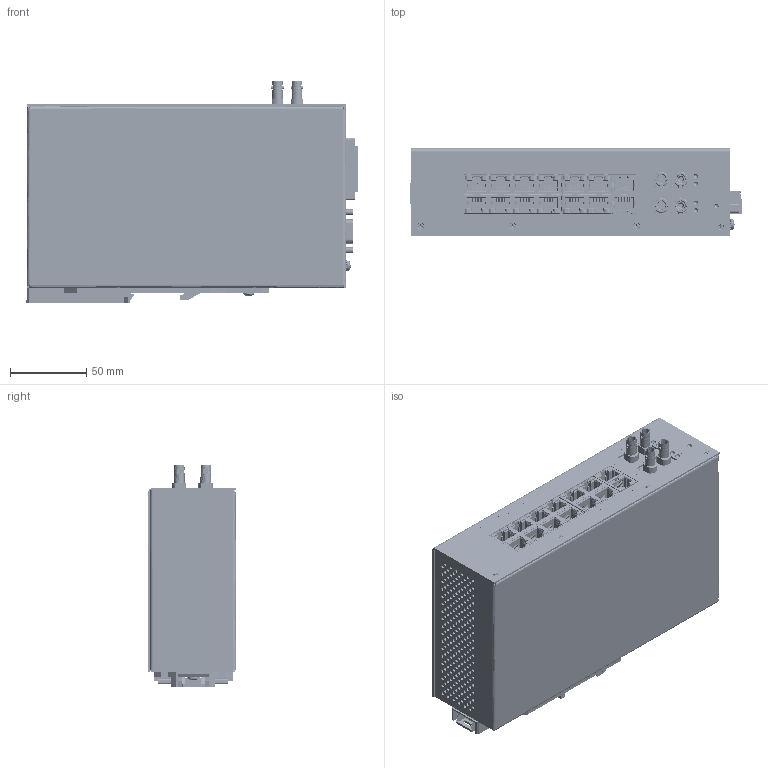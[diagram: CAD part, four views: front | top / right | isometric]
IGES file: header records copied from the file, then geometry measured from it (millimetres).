
Start section: SolidWorks IGES file using analytic representation for surfaces
Global section: file name: W:\Teams\Mech\SE data\Product_Lines\Customer 3D Models (Step files)\Switches\700 series\716FX2-SC\716FX2  - IGES - Parasolid - STEP\IGES\716FX2.IGS; native system: SolidWorks 2022; preprocessor: SolidWorks 2022; author: joseph.cirabisi; date: 230213.104048; units: inch
Bounding box: 218.09 x 57.58 x 145.41 mm (x, y, z)
Surface area: 381611.6 mm2 (no closed solid volume)
Topology: 0 solids, 0 shells, 12108 faces, 122807 edges, 122648 vertices
Faces by surface type: bspline 9023, revolution 3085
